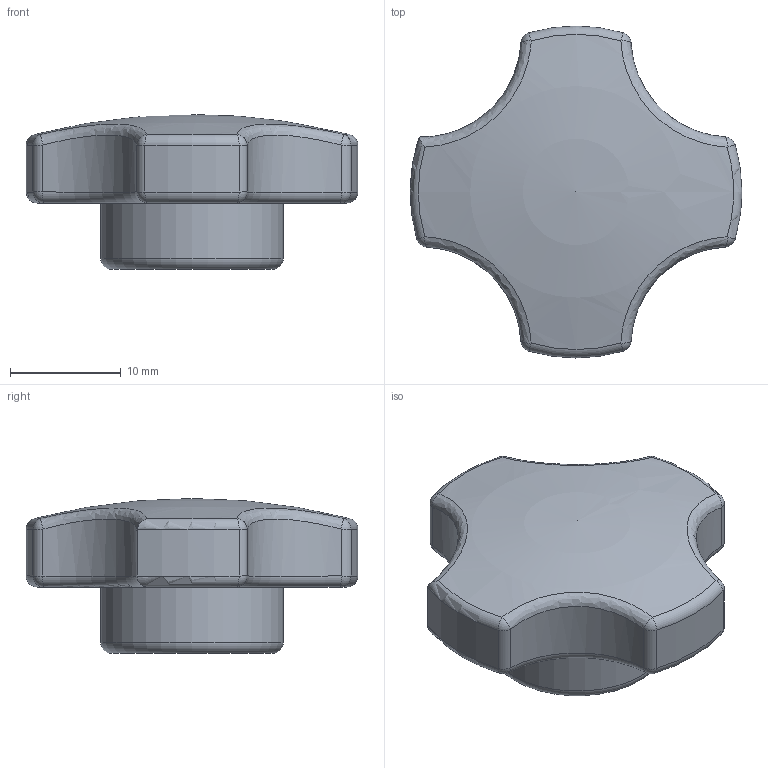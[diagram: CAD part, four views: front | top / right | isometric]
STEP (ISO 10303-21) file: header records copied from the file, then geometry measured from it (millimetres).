
FILE_DESCRIPTION(/* description */ (''),/* implementation_level */ '2;1');
FILE_NAME(/* name */ '\\SYNOLOGYNAS\web\db2\FOKN_M\FOKN-M5\도면\FOKN-M5.stp',/* time_stamp */ '2024-05-01T15:21:43+09:00',/* author */ ('user'),/* organization */ (''),/* preprocessor_version */ 'ST-DEVELOPER v15.6',/* originating_system */ 'Autodesk Inventor 2015',/* authorisation */ '');
FILE_SCHEMA (('AUTOMOTIVE_DESIGN { 1 0 10303 214 3 1 1 }'));
Length unit declared in the file: millimetre
Products named in the file (1): FOKN-M5
Bounding box: 30 x 30 x 14 mm (x, y, z)
Volume: 5089.3 mm3; surface area: 2077.6 mm2
Topology: 1 solids, 1 shells, 52 faces, 105 edges, 55 vertices
Faces by surface type: cylinder 17, sphere 15, torus 13, bspline 4, plane 2, cone 1
Full cylindrical faces by diameter (mm): 4.134 x1, 16.5 x1
Entity records: 1461 total; most frequent: CARTESIAN_POINT 385, DIRECTION 255, ORIENTED_EDGE 194, AXIS2_PLACEMENT_3D 120, EDGE_CURVE 97, CIRCLE 71, EDGE_LOOP 57, FACE_OUTER_BOUND 52
